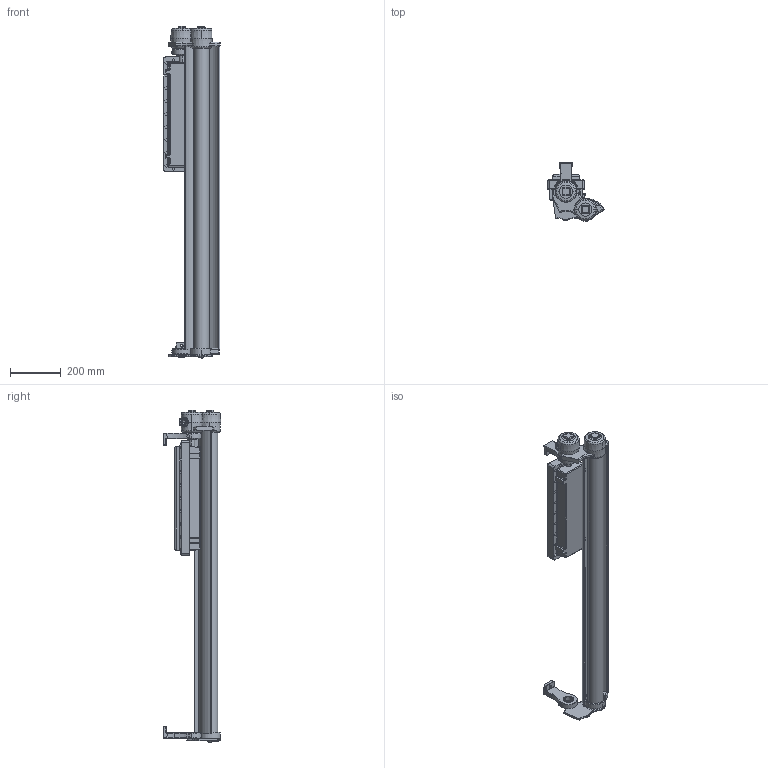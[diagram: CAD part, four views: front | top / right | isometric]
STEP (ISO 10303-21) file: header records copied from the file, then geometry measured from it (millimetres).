
FILE_DESCRIPTION (( 'STEP AP214' ), '1' );
FILE_NAME ('EPL-48-1L-GSLED-UVA.STEP', '2015-10-22T14:33:45', ( '' ), ( '' ), 'SwSTEP 2.0', 'SolidWorks 2015', '' );
FILE_SCHEMA (( 'AUTOMOTIVE_DESIGN' ));
Length unit declared in the file: inch
Products named in the file (12): EPL-48-1L-GSLED-UVA; Ballast Box; EPL Surface Mount; Spider End_1_1L; Update Reflector 4ft_1; Glass tube4ft_1; connect 2_1; quarter screw_1; connect 1_1; End Support_1_1L; End Support_1_1_2_1L; End Support_1_1_3
Assembly tree (15 placements, depth 3):
  EPL-48-1L-GSLED-UVA
    End Support_1_1L
      End Support_1_1_3
      End Support_1_1_2_1L
    connect 1_1
    quarter screw_1  x4
    connect 2_1
    Glass tube4ft_1
    Update Reflector 4ft_1
    Spider End_1_1L
    EPL Surface Mount  x2
    Ballast Box
Bounding box: 223.14 x 227.93 x 1307.55 mm (x, y, z)
Volume: 5599614.8 mm3; surface area: 1155190.2 mm2
Topology: 13 solids, 15 shells, 683 faces, 1950 edges, 1261 vertices
Faces by surface type: plane 292, cylinder 189, bspline 98, torus 52, cone 36, sphere 16
Entity records: 30678 total; most frequent: CARTESIAN_POINT 13416, ORIENTED_EDGE 2887, DIRECTION 2672, EDGE_CURVE 1626, VERTEX_POINT 1084, LINE 918, VECTOR 918, AXIS2_PLACEMENT_3D 877
